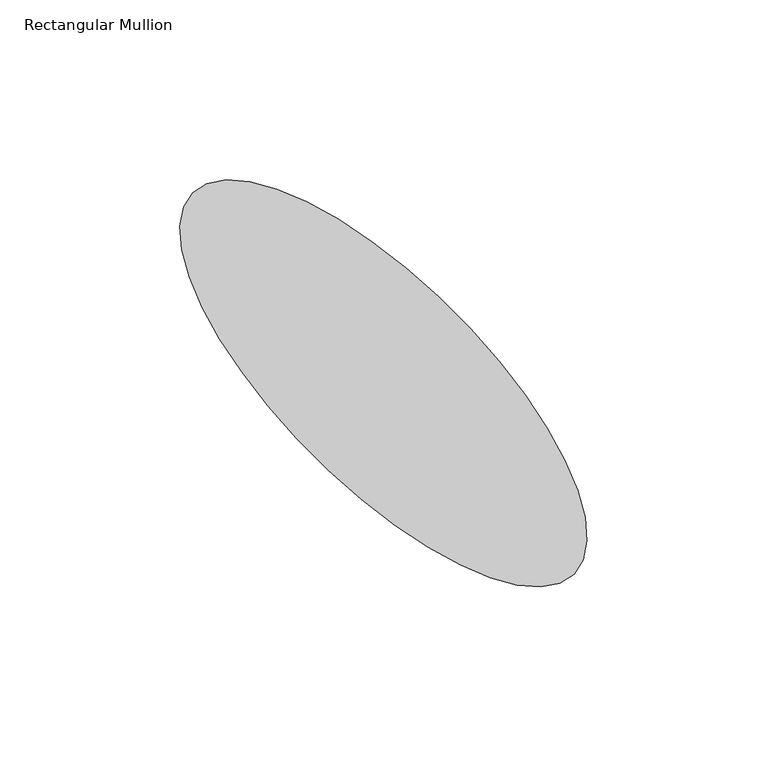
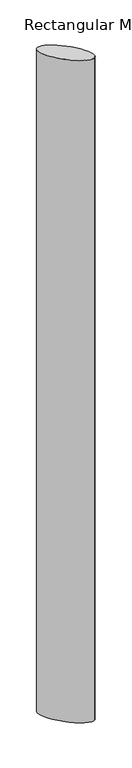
"""IFC4 building model written with IfcOpenShell, lengths in millimetres: member geometry, Rectangular Mullion : RSen_21_CWM_blade - 150 D_gen_duco projects."""

import ifcopenshell
import ifcopenshell.guid

model = None  # the IFC model being written
_history = None  # IfcOwnerHistory: only IFC2X3 demands one
_inside = {}  # id of a spatial element -> (the spatial element, [elements in it])
_under = {}  # id of a project, library or spatial element -> (it, [spatial elements below it])
_declared = {}  # id of a project -> (the project, [libraries it declares])
_typed = {}  # id of a type object -> (the type object, [elements of that type])
_made_of = {}  # id of a material, layer set ... -> (it, [elements and type objects made of it])


def new_model(schema):
    """Start an empty IFC model of exactly this schema.

    Asked for "IFC4X3", IfcOpenShell would pick the latest addendum, in which some entities
    have other attributes; the version numbers below select the first issue.
    IFC2X3 requires an IfcOwnerHistory on every rooted entity: one is made here for all.
    """
    global model, _history
    if schema == "IFC4X3":
        model = ifcopenshell.file(schema_version=(4, 3, 0, 0))
    else:
        model = ifcopenshell.file(schema=schema)
    _inside.clear()
    _under.clear()
    _declared.clear()
    _typed.clear()
    _made_of.clear()
    _history = None
    if model.schema == "IFC2X3":
        org = make("IfcOrganization", Name="unknown")
        user = make(
            "IfcPersonAndOrganization",
            ThePerson=make("IfcPerson", FamilyName="unknown"),
            TheOrganization=org,
        )
        app = make(
            "IfcApplication",
            ApplicationDeveloper=org,
            Version="unknown",
            ApplicationFullName="unknown",
            ApplicationIdentifier="unknown",
        )
        _history = make(
            "IfcOwnerHistory",
            OwningUser=user,
            OwningApplication=app,
            ChangeAction="ADDED",
            CreationDate=0,
        )
    return model


def make(cls, **values):
    """One entity of the class cls with the attributes given. An attribute that is None is left unset."""
    return model.create_entity(
        cls, **{name: value for name, value in values.items() if value is not None}
    )


def rooted(cls, **values):
    """An entity with a GlobalId (a new one), such as an element, a storey or a relation."""
    return make(cls, GlobalId=ifcopenshell.guid.new(), OwnerHistory=_history, **values)


def si_unit(unit_type, name, prefix=None):
    """IfcSIUnit, for example si_unit("LENGTHUNIT", "METRE", prefix="MILLI")."""
    return make("IfcSIUnit", UnitType=unit_type, Prefix=prefix, Name=name)


def assignment(units):
    """IfcUnitAssignment: the units of a project."""
    return None if units is None else make("IfcUnitAssignment", Units=units)


def point(xyz):
    """IfcCartesianPoint."""
    return None if xyz is None else make("IfcCartesianPoint", Coordinates=xyz)


def direction(xyz):
    """IfcDirection."""
    return None if xyz is None else make("IfcDirection", DirectionRatios=xyz)


def frame(location, z_axis=None, x_axis=None):
    """IfcAxis2Placement3D, a coordinate frame: its origin and axes. An axis left out is left unset."""
    return make(
        "IfcAxis2Placement3D",
        Location=point(location),
        Axis=direction(z_axis),
        RefDirection=direction(x_axis),
    )


def origin():
    """The frame at (0, 0, 0) with its axes left unset."""
    return frame((0.0, 0.0, 0.0))


def place(relative_to, where):
    """IfcLocalPlacement: puts the frame where relative to a parent placement (None: the world)."""
    return make(
        "IfcLocalPlacement", PlacementRelTo=relative_to, RelativePlacement=where
    )


def context(
    kind, dimensions, precision=None, world=None, true_north=None, identifier=None
):
    """IfcGeometricRepresentationContext, for example the 3D "Model" context."""
    return make(
        "IfcGeometricRepresentationContext",
        ContextIdentifier=identifier,
        ContextType=kind,
        CoordinateSpaceDimension=dimensions,
        Precision=precision,
        WorldCoordinateSystem=world,
        TrueNorth=true_north,
    )


def project(units=None, contexts=None):
    """IfcProject with its units and contexts."""
    return rooted(
        "IfcProject",
        Name="project",
        RepresentationContexts=contexts,
        UnitsInContext=assignment(units),
    )


def spatial(cls, under=None, at=None, **own):
    """A site, building, storey or space (cls), placed at a placement, below another one or the project."""
    s = rooted(cls, ObjectPlacement=at, **own)
    if under is not None:
        _under.setdefault(under.id(), (under, []))[1].append(s)
    return s


def ellipse_curve(where, semi_axis1, semi_axis2):
    """IfcEllipse in the frame where."""
    return make(
        "IfcEllipse", Position=where, SemiAxis1=semi_axis1, SemiAxis2=semi_axis2
    )


def trimmed(basis, trim1, trim2, sense, master):
    """IfcTrimmedCurve: the piece of a basis curve between two trims."""
    return make(
        "IfcTrimmedCurve",
        BasisCurve=basis,
        Trim1=trim1,
        Trim2=trim2,
        SenseAgreement=sense,
        MasterRepresentation=master,
    )


def shape(context_of_items, identifier, shape_type, items):
    """IfcShapeRepresentation: the items that make up one representation, for example the "Body"."""
    return make(
        "IfcShapeRepresentation",
        ContextOfItems=context_of_items,
        RepresentationIdentifier=identifier,
        RepresentationType=shape_type,
        Items=items,
    )


def source(mapping_origin, context_of_items, identifier, shape_type, items):
    """IfcRepresentationMap: a shape defined once, which mapped items show again and again."""
    return make(
        "IfcRepresentationMap",
        MappingOrigin=mapping_origin,
        MappedRepresentation=shape(context_of_items, identifier, shape_type, items),
    )


def transform(
    local_origin,
    x_axis=None,
    y_axis=None,
    z_axis=None,
    scale=None,
    scale2=None,
    scale3=None,
    uniform=True,
):
    """IfcCartesianTransformationOperator3D, or its non-uniform kind. x_axis, y_axis, z_axis: its Axis1, 2, 3."""
    if uniform:
        return make(
            "IfcCartesianTransformationOperator3D",
            Axis1=direction(x_axis),
            Axis2=direction(y_axis),
            LocalOrigin=point(local_origin),
            Scale=scale,
            Axis3=direction(z_axis),
        )
    return make(
        "IfcCartesianTransformationOperator3DnonUniform",
        Axis1=direction(x_axis),
        Axis2=direction(y_axis),
        LocalOrigin=point(local_origin),
        Scale=scale,
        Axis3=direction(z_axis),
        Scale2=scale2,
        Scale3=scale3,
    )


def mapped(mapping_source, mapping_target):
    """IfcMappedItem: shows the shape of a source again, moved by a transform."""
    return make(
        "IfcMappedItem", MappingSource=mapping_source, MappingTarget=mapping_target
    )


def made_of(thing, what):
    """Note that an element or type object is made of a material, layer set ...; save() writes the relation."""
    if what is not None:
        _made_of.setdefault(what.id(), (what, []))[1].append(thing)
    return thing


def element(
    cls,
    number,
    at=None,
    inside=None,
    cuts=None,
    type_object=None,
    material=None,
    context=None,
    identifier="Body",
    shape_type=None,
    held_by="IfcProductDefinitionShape",
    body=None,
    shapes=None,
    **own,
):
    """One element of the class cls, such as IfcWall. Its Tag is "e" and its number.

    at: its placement. inside: the storey or other place that contains it. cuts: it is an
    opening in that element (IfcRelVoidsElement). A single representation is given by context,
    identifier, shape_type and body (its items); several are given by shapes. held_by: the class
    of the entity that holds the representations. save() writes the other relations.
    """
    e = rooted(cls, Tag="e%d" % number, ObjectPlacement=at, **own)
    if body is not None:
        shapes = [shape(context, identifier, shape_type, body)]
    if shapes is not None:
        e.Representation = make(held_by, Representations=shapes)
    if inside is not None:
        _inside.setdefault(inside.id(), (inside, []))[1].append(e)
    if cuts is not None:
        rooted(
            "IfcRelVoidsElement", RelatingBuildingElement=cuts, RelatedOpeningElement=e
        )
    if type_object is not None:
        _typed.setdefault(type_object.id(), (type_object, []))[1].append(e)
    return made_of(e, material)


def aggregate(whole, parts):
    """IfcRelAggregates: a whole, such as a stair, and the parts it consists of."""
    return rooted("IfcRelAggregates", RelatingObject=whole, RelatedObjects=parts)


def save(model, path):
    """Write the relations noted so far, then the file.

    IfcRelAggregates (storeys below a building ...), IfcRelContainedInSpatialStructure (elements
    in a storey), IfcRelDefinesByType, IfcRelAssociatesMaterial and IfcRelDeclares: one each for
    every whole, place, type object, material and project.
    """
    for whole, parts in _under.values():
        aggregate(whole, parts)
    for where, things in _inside.values():
        rooted(
            "IfcRelContainedInSpatialStructure",
            RelatedElements=things,
            RelatingStructure=where,
        )
    for kind, things in _typed.values():
        rooted("IfcRelDefinesByType", RelatedObjects=things, RelatingType=kind)
    for what, things in _made_of.values():
        rooted("IfcRelAssociatesMaterial", RelatedObjects=things, RelatingMaterial=what)
    for by, libraries in _declared.values():
        rooted("IfcRelDeclares", RelatingContext=by, RelatedDefinitions=libraries)
    model.write(path)


def plane_surface(at):
    """IfcPlane: the flat surface through the origin of the frame at, square to its z axis."""
    return make("IfcPlane", Position=at)


def extruded_surface(curve, direction_of_extrusion, depth):
    """IfcSurfaceOfLinearExtrusion: the curve pushed along a direction by depth."""
    return make(
        "IfcSurfaceOfLinearExtrusion",
        SweptCurve=make("IfcArbitraryOpenProfileDef", ProfileType="CURVE", Curve=curve),
        ExtrudedDirection=direction(direction_of_extrusion),
        Depth=depth,
    )


def advanced_brep(points, edges, surfaces, faces):
    """IfcAdvancedBrep: a solid bounded by faces that lie on surfaces and meet in shared edges.

    An edge is (start, end): straight between two places in points (the first is 0);
    or (start, end, curve); or (start, end, curve, False) where it runs against its curve.
    A face is (place in surfaces, loops), or (place, loops, False) where it looks against
    its surface's normal. A loop lists edges by number (the first is 1), with a minus sign
    where the edge is run from its end to its start. The first loop is the outer one.
    """
    corners = [point(p) for p in points]
    vertices = [make("IfcVertexPoint", VertexGeometry=c) for c in corners]
    made = []
    for start, end, *more in edges:
        made.append(
            make(
                "IfcEdgeCurve",
                EdgeStart=vertices[start],
                EdgeEnd=vertices[end],
                EdgeGeometry=more[0] if more else make("IfcPolyline", Points=[corners[start], corners[end]]),
                SameSense=more[1] if len(more) > 1 else True,
            )
        )
    hull = []
    for where, loops, *sense in faces:
        bounds = []
        for j, loop in enumerate(loops):
            ring = [make("IfcOrientedEdge", EdgeElement=made[abs(k) - 1], Orientation=k > 0) for k in loop]
            bounds.append(
                make(
                    "IfcFaceOuterBound" if j == 0 else "IfcFaceBound",
                    Bound=make("IfcEdgeLoop", EdgeList=ring),
                    Orientation=True,
                )
            )
        hull.append(make("IfcAdvancedFace", Bounds=bounds, FaceSurface=surfaces[where], SameSense=sense[0] if sense else True))
    return make("IfcAdvancedBrep", Outer=make("IfcClosedShell", CfsFaces=hull))


def rectangular_mullion_18d4e549(model_context):
    return source(origin(), model_context, "Body", "AdvancedBrep", [
        advanced_brep(
        [(53.0330086, 1.9669914, 0.0), (-53.0330086, 108.0330086, 0.0), (53.0330086, 1.9669914, -2000.0), (-53.0330086, 108.0330086, -2000.0)],
        [
            (0, 1, ellipse_curve(frame((0.0, 55.0, 0.0), z_axis=(0.0, 0.0, 1.0000000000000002), x_axis=(-0.7071067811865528, 0.7071067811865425, 0.0)), 75.0, 28.0)),
            (1, 0, ellipse_curve(frame((0.0, 55.0, 0.0), z_axis=(0.0, 0.0, 1.0000000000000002), x_axis=(-0.7071067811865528, 0.7071067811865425, 0.0)), 75.0, 28.0)),
            (2, 3, ellipse_curve(frame((0.0, 55.0, -2000.0), z_axis=(0.0, 0.0, -1.0000000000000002), x_axis=(-0.7071067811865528, 0.7071067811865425, 0.0)), 75.0, 28.0)),
            (3, 2, ellipse_curve(frame((0.0, 55.0, -2000.0), z_axis=(0.0, 0.0, -1.0000000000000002), x_axis=(-0.7071067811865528, 0.7071067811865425, 0.0)), 75.0, 28.0)),
            (0, 2),
            (3, 1),
        ],
        [
            plane_surface(frame((0.0, -120.3479578, 0.0), z_axis=(0.0, 0.0, 1.0), x_axis=(-1.0, 0.0, 0.0))),
            plane_surface(frame((0.0, -120.3479578, -2000.0), z_axis=(0.0, 0.0, -1.0), x_axis=(-1.0, 0.0, 0.0))),
            extruded_surface(trimmed(ellipse_curve(frame((0.0, 55.0, -2000.0), z_axis=(0.0, 0.0, 1.0000000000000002), x_axis=(-0.7071067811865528, 0.7071067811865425, 0.0)), 75.0, 28.0), [point((53.0330086, 1.9669914, -2000.0))], [point((-53.0330086, 108.0330086, -2000.0))], True, "CARTESIAN"), (0.0, 0.0, 2000.0), 2000.0),
            extruded_surface(trimmed(ellipse_curve(frame((0.0, 55.0, -2000.0), z_axis=(0.0, 0.0, 1.0000000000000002), x_axis=(-0.7071067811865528, 0.7071067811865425, 0.0)), 75.0, 28.0), [point((-53.0330086, 108.0330086, -2000.0))], [point((53.0330086, 1.9669914, -2000.0))], True, "CARTESIAN"), (0.0, 0.0, 2000.0), 2000.0),
        ],
        [
            (0, [[1, 2]]),
            (1, [[3, 4]]),
            (2, [[-1, 5, -4, 6]]),
            (3, [[-2, -6, -3, -5]]),
        ],
    ),
    ])


if __name__ == "__main__":
    model = new_model("IFC4")
    model_context = context("Model", 3, world=origin())
    ifc_project = project(units=[si_unit("LENGTHUNIT", "METRE", prefix="MILLI")], contexts=[model_context])
    site = spatial("IfcSite", under=ifc_project)
    building = spatial("IfcBuilding", under=site)
    placement = place(None, origin())
    rectangular_mullion_shape = rectangular_mullion_18d4e549(model_context)
    element("IfcMember", 1, ObjectType="Rectangular Mullion : RSen_21_CWM_blade - 150 D_gen_duco projects", at=placement, inside=building, context=model_context, shape_type="MappedRepresentation", body=[
        mapped(rectangular_mullion_shape, transform((0.0, 0.0, 0.0), x_axis=(1.0, 0.0, 0.0), y_axis=(0.0, 1.0, 0.0), z_axis=(0.0, 0.0, 1.0))),
    ])
    save(model, "model.ifc")
